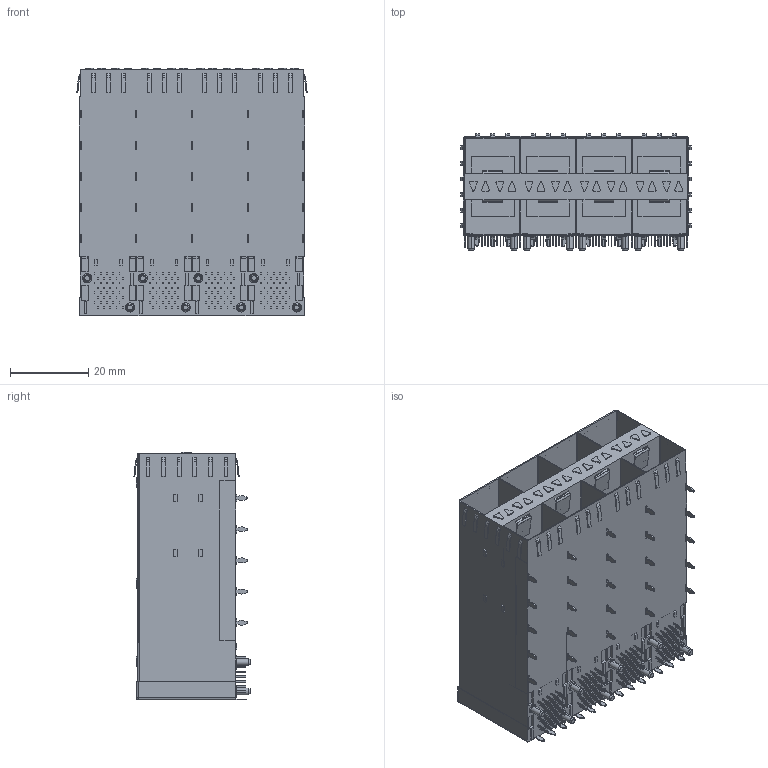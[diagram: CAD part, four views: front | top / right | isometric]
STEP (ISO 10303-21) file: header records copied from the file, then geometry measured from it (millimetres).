
FILE_DESCRIPTION (( 'STEP AP203' ), '1' );
FILE_NAME ('12401_SFP 2X4 无月牙 内外导光柱.STEP', '2022-07-08T06:15:24', ( '桑三博客' ), ( 'Www.SangSan.Cn' ), 'SwSTEP 2.0', 'SolidWorks 2018', '' );
FILE_SCHEMA (( 'CONFIG_CONTROL_DESIGN' ));
Length unit declared in the file: millimetre
Products named in the file (1): 12401_SFP 2X4 无月牙 内外导光柱
Bounding box: 59.05 x 29.8 x 63.5 mm (x, y, z)
Volume: 46743.4 mm3; surface area: 33711.7 mm2
Topology: 1 solids, 1 shells, 2510 faces, 6654 edges, 4422 vertices
Faces by surface type: plane 1862, cylinder 614, cone 32, sphere 2
Entity records: 77453 total; most frequent: CARTESIAN_POINT 13585, ORIENTED_EDGE 13304, DIRECTION 12934, EDGE_CURVE 6652, LINE 5392, VECTOR 5392, VERTEX_POINT 4422, AXIS2_PLACEMENT_3D 3771
